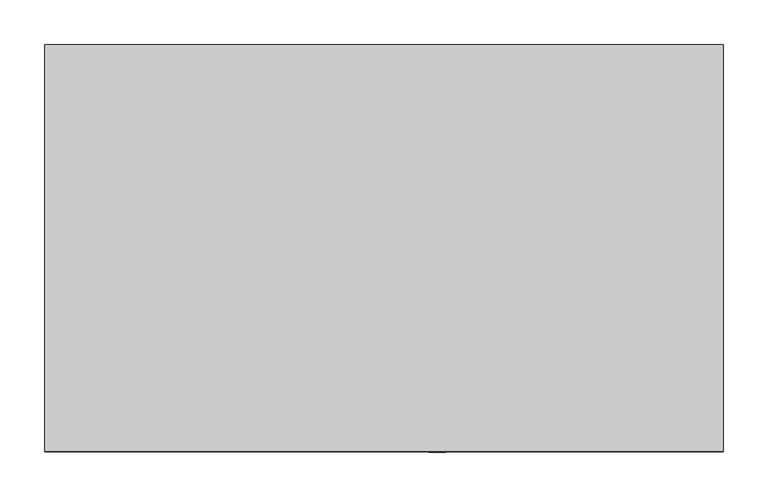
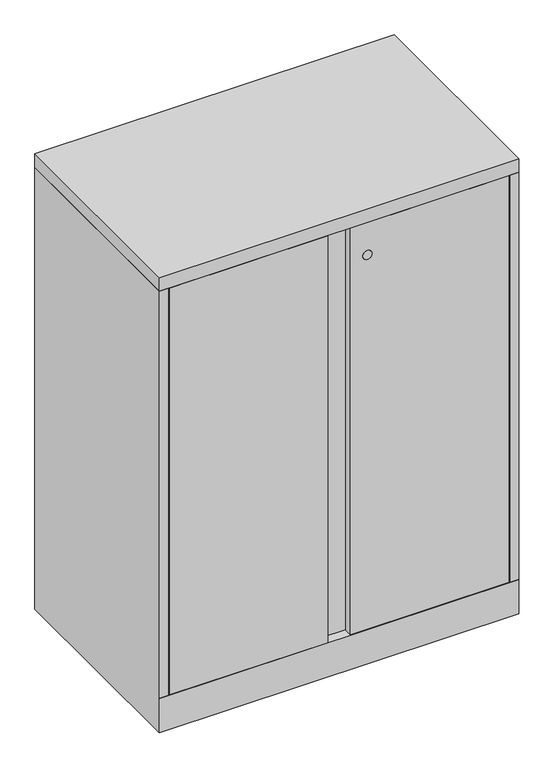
"""IFC4 building model written with IfcOpenShell, lengths in millimetres: furniture geometry, Steelcase - Universal Storage - Cabinet - Storage - 40H-52H - Flush Steel : 40H x 18D x 30W."""

from ifc_helpers import new_model, si_unit, point, frame, frame_2d, origin, place, context, project, spatial, polyline, circle_curve, trimmed, segment, composite_curve, outline, extrude, faceted_brep, source, transform, mapped, element, save


def furniture_93a6107d(model_context):
    return source(origin(), model_context, "Body", "SolidModel", [
        extrude(outline(polyline([(762.0, 0.0), (762.0, -457.2), (0.0, -457.2), (0.0, 0.0), (762.0, 0.0)])), frame((0.0, 0.0, 990.6), z_axis=(0.0, 0.0, 1.0), x_axis=(1.0, 0.0, 0.0)), (0.0, 0.0, 1.0), 30.226),
        extrude(outline(composite_curve([segment(trimmed(circle_curve(frame_2d((917.575, 440.8109835)), 9.7167829), [point((917.575, 450.5277664))], [point((917.575, 431.0942006))], False, "CARTESIAN"), True, "CONTINUOUS"), segment(trimmed(circle_curve(frame_2d((917.575, 440.8109835)), 9.7167829), [point((917.575, 431.0942006))], [point((917.575, 450.5277664))], False, "CARTESIAN"), True, "CONTINUOUS")], self_intersect=False)), frame((0.0, -457.8695275, 0.0), z_axis=(0.0, 1.0, 0.0), x_axis=(0.0, 0.0, 1.0)), (0.0, 0.0, 1.0), 0.6695275),
        extrude(outline(polyline([(20.8280006, -431.673866), (741.172, -431.673866), (741.172, -457.2), (405.13, -457.2), (405.13, -438.0238781), (356.87, -438.0238781), (356.87, -457.2), (20.8280006, -457.2), (20.8280006, -431.673866)])), frame((0.0, 0.0, 77.724), z_axis=(0.0, 0.0, 1.0), x_axis=(1.0, 0.0, 0.0)), (0.0, 0.0, 1.0), 911.606),
        faceted_brep([(762.0, 0.0, 0.0), (762.0, -457.2, 0.0), (0.0, -457.2, 0.0), (0.0, 0.0, 0.0), (0.0, 0.0, 990.6), (762.0, 0.0, 990.6), (0.0, -457.2, 76.2), (0.0, -457.2, 77.724), (0.0, -457.2, 990.6), (762.0, -457.2, 76.2), (762.0, -457.2, 990.6), (762.0, -457.2, 77.724), (736.6000242, -25.4000008, 990.6), (736.6000242, -430.1498674, 990.6), (741.172, -430.1498674, 990.6), (741.172, -431.6738781, 990.6), (742.696, -431.6738781, 990.6), (742.696, -457.2, 990.6), (19.304, -457.2, 990.6), (19.304, -431.673866, 990.6), (20.8280006, -431.673866, 990.6), (20.8280006, -430.1498674, 990.6), (25.4000008, -430.1498674, 990.6), (25.4000008, -25.4000008, 990.6), (19.304, -457.2, 77.724), (19.304, -437.896, 77.724), (742.696, -457.2, 77.724), (742.696, -437.7698418, 77.724), (736.6000242, -25.4000008, 77.724), (736.6000242, -430.1498674, 77.724), (741.172, -430.1498674, 77.724), (741.172, -431.6738781, 77.724), (742.696, -431.6738781, 77.724), (19.304, -431.673866, 77.724), (20.8280006, -431.673866, 77.724), (20.8280006, -430.1498674, 77.724), (25.4000008, -430.1498674, 77.724), (25.4000008, -25.4000008, 77.724), (25.526134, -431.673866, 77.724), (736.6000242, -431.673866, 77.724)], [[[0, 1, 2, 3]], [[0, 3, 4, 5]], [[4, 3, 2, 6, 7, 8]], [[2, 1, 9, 6]], [[1, 0, 5, 10, 11, 9]], [[12, 13, 14, 15, 16, 17, 10, 5, 4, 8, 18, 19, 20, 21, 22, 23]], [[24, 7, 25]], [[11, 26, 27]], [[13, 12, 28, 29]], [[14, 13, 29, 30]], [[15, 14, 30, 31]], [[16, 15, 31, 32]], [[17, 16, 32, 27, 26]], [[10, 17, 26, 11]], [[18, 8, 7, 24]], [[19, 18, 24, 25, 33]], [[20, 19, 33, 34]], [[21, 20, 34, 35]], [[22, 21, 35, 36]], [[23, 22, 36, 37]], [[12, 23, 37, 28]], [[38, 39, 27, 32, 31, 30, 29, 28, 37, 36, 35, 34, 33, 25]], [[7, 6, 38, 25]], [[39, 38, 6, 9]], [[39, 9, 11, 27]]]),
    ])


if __name__ == "__main__":
    model = new_model("IFC4")
    model_context = context("Model", 3, world=origin())
    ifc_project = project(units=[si_unit("LENGTHUNIT", "METRE", prefix="MILLI")], contexts=[model_context])
    site = spatial("IfcSite", under=ifc_project)
    building = spatial("IfcBuilding", under=site)
    placement = place(None, origin())
    furniture_shape = furniture_93a6107d(model_context)
    element("IfcFurniture", 1, ObjectType="Steelcase - Universal Storage - Cabinet - Storage - 40H-52H - Flush Steel : 40H x 18D x 30W", at=placement, inside=building, context=model_context, shape_type="MappedRepresentation", body=[
        mapped(furniture_shape, transform((0.0, 0.0, 0.0), x_axis=(1.0, 0.0, 0.0), y_axis=(0.0, 1.0, 0.0), z_axis=(0.0, 0.0, 1.0))),
    ])
    save(model, "model.ifc")
